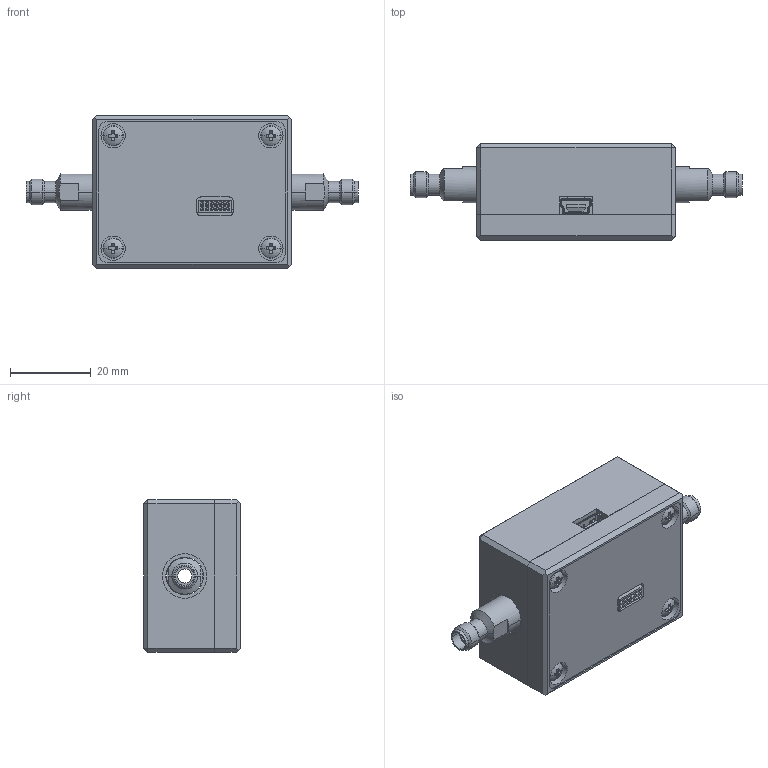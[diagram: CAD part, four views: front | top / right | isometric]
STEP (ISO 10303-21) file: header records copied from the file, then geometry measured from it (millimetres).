
FILE_DESCRIPTION (( 'STEP AP203' ), '1' );
FILE_NAME ('R0370.00.000-03 ACM6000T_2509 mod.112.STEP', '2020-06-10T08:42:13', ( '' ), ( '' ), 'SwSTEP 2.0', 'SolidWorks 2014', '' );
FILE_SCHEMA (( 'CONFIG_CONTROL_DESIGN' ));
Length unit declared in the file: millimetre
Products named in the file (1): R0370.00.000-03 ACM6000T_2509 mod.112
Bounding box: 82.06 x 23.8 x 37.8 mm (x, y, z)
Surface area: 11343.2 mm2 (no closed solid volume)
Topology: 0 solids, 22 shells, 542 faces, 1692 edges, 1177 vertices
Faces by surface type: plane 355, cone 83, cylinder 82, torus 12, sphere 8, bspline 2
Entity records: 18899 total; most frequent: CARTESIAN_POINT 4268, DIRECTION 2967, ORIENTED_EDGE 2748, EDGE_CURVE 1692, VERTEX_POINT 1177, LINE 1055, VECTOR 1055, AXIS2_PLACEMENT_3D 956
